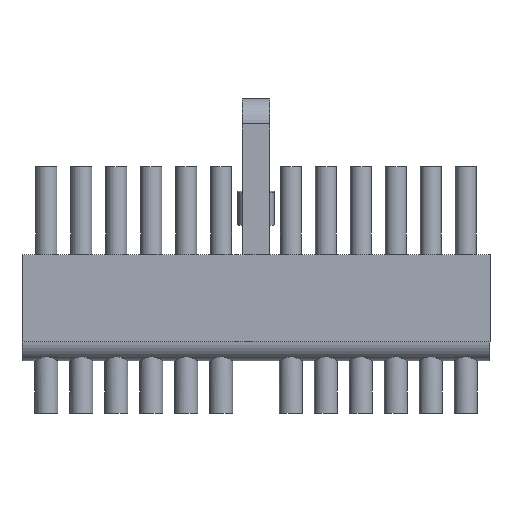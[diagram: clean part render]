
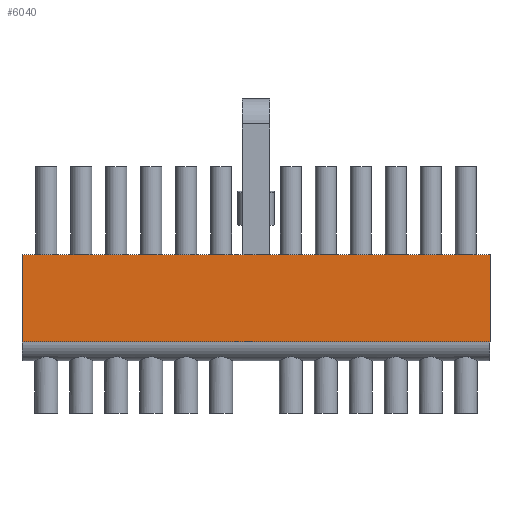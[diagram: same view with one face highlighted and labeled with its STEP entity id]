
A CAD part, front view. The second image highlights one B-rep face of the part: STEP entity #6040.
In plain terms, the highlighted planar face has unit normal (0, -1, 0).
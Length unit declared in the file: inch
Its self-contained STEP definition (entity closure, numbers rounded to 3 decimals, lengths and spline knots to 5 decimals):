
#178 = CARTESIAN_POINT ( 'NONE',  ( 0.335, -0.0375, 0.0625 ) ) ;
#258 = LINE ( 'NONE', #1044, #4810 ) ;
#521 = CARTESIAN_POINT ( 'NONE',  ( 2.2125, -0.0375, 0.0625 ) ) ;
#693 = CARTESIAN_POINT ( 'NONE',  ( 0.335, -0.0375, -0.0625 ) ) ;
#751 = ORIENTED_EDGE ( 'NONE', *, *, #3540, .T. ) ;
#890 = CARTESIAN_POINT ( 'NONE',  ( -0.335, -0.0375, -0.0625 ) ) ;
#1044 = CARTESIAN_POINT ( 'NONE',  ( 2.2125, -0.0375, -0.0625 ) ) ;
#1644 = CARTESIAN_POINT ( 'NONE',  ( 2.2125, -0.0375, 0.0625 ) ) ;
#1955 = VERTEX_POINT ( 'NONE', #2978 ) ;
#1975 = FACE_OUTER_BOUND ( 'NONE', #6615, .T. ) ;
#1998 = EDGE_CURVE ( 'NONE', #11467, #5926, #6600, .T. ) ;
#2928 = ORIENTED_EDGE ( 'NONE', *, *, #1998, .F. ) ;
#2978 = CARTESIAN_POINT ( 'NONE',  ( -0.335, -0.0375, 0.0625 ) ) ;
#3540 = EDGE_CURVE ( 'NONE', #1955, #6796, #7953, .T. ) ;
#3924 = AXIS2_PLACEMENT_3D ( 'NONE', #1644, #11216, #11140 ) ;
#4300 = VECTOR ( 'NONE', #11898, 39.37008 ) ;
#4511 = CARTESIAN_POINT ( 'NONE',  ( -0.335, -0.0375, 0.0625 ) ) ;
#4810 = VECTOR ( 'NONE', #10058, 39.37008 ) ;
#5060 = LINE ( 'NONE', #521, #4300 ) ;
#5217 = ORIENTED_EDGE ( 'NONE', *, *, #8061, .T. ) ;
#5926 = VERTEX_POINT ( 'NONE', #693 ) ;
#6040 = ADVANCED_FACE ( 'NONE', ( #1975 ), #11255, .F. ) ;
#6190 = CARTESIAN_POINT ( 'NONE',  ( 0.335, -0.0375, 0.0625 ) ) ;
#6568 = EDGE_CURVE ( 'NONE', #5926, #6796, #258, .T. ) ;
#6600 = LINE ( 'NONE', #178, #6731 ) ;
#6615 = EDGE_LOOP ( 'NONE', ( #2928, #5217, #751, #11750 ) ) ;
#6731 = VECTOR ( 'NONE', #8279, 39.37008 ) ;
#6796 = VERTEX_POINT ( 'NONE', #890 ) ;
#7941 = VECTOR ( 'NONE', #11555, 39.37008 ) ;
#7953 = LINE ( 'NONE', #4511, #7941 ) ;
#8061 = EDGE_CURVE ( 'NONE', #11467, #1955, #5060, .T. ) ;
#8279 = DIRECTION ( 'NONE',  ( 0., 0., -1. ) ) ;
#10058 = DIRECTION ( 'NONE',  ( -1., 0., 0. ) ) ;
#11140 = DIRECTION ( 'NONE',  ( 0., 0., 1. ) ) ;
#11216 = DIRECTION ( 'NONE',  ( 0., 1., 0. ) ) ;
#11255 = PLANE ( 'NONE',  #3924 ) ;
#11467 = VERTEX_POINT ( 'NONE', #6190 ) ;
#11555 = DIRECTION ( 'NONE',  ( 0., 0., -1. ) ) ;
#11750 = ORIENTED_EDGE ( 'NONE', *, *, #6568, .F. ) ;
#11898 = DIRECTION ( 'NONE',  ( -1., 0., 0. ) ) ;
